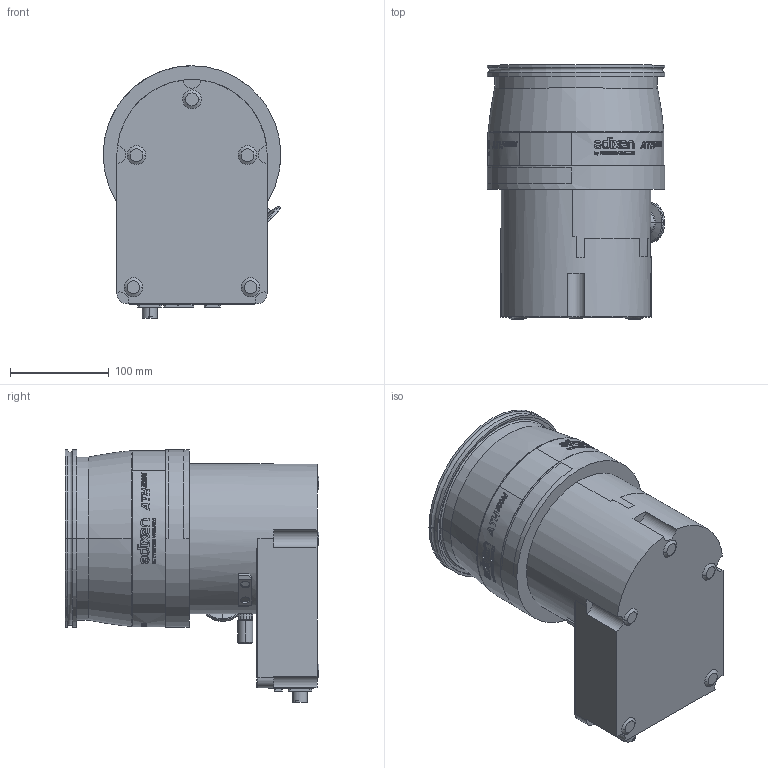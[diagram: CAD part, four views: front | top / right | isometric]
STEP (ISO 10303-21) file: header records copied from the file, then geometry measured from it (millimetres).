
FILE_DESCRIPTION((''),'2;1');
FILE_NAME('STEP-ATH500M-DN160ISOK-PROF','2017-02-13T',('FLEBEAU'),(''),'PRO/ENGINEER BY PARAMETRIC TECHNOLOGY CORPORATION, 2015280','PRO/ENGINEER BY PARAMETRIC TECHNOLOGY CORPORATION, 2015280','');
FILE_SCHEMA(('CONFIG_CONTROL_DESIGN'));
Products named in the file (1): STEP-ATH500M-DN160ISOK-PROF
Bounding box: 180 x 256.99 x 255.75 mm (x, y, z)
Volume: 6135743.3 mm3; surface area: 244312.1 mm2
Topology: 1 solids, 1 shells, 1984 faces, 5484 edges, 3654 vertices
Faces by surface type: bspline 1115, plane 629, cylinder 214, cone 16, torus 10
Entity records: 99560 total; most frequent: CARTESIAN_POINT 55885, ORIENTED_EDGE 10968, DIRECTION 5775, EDGE_CURVE 5484, VERTEX_POINT 3654, B_SPLINE_CURVE_WITH_KNOTS 2327, VECTOR 2277, LINE 2277
